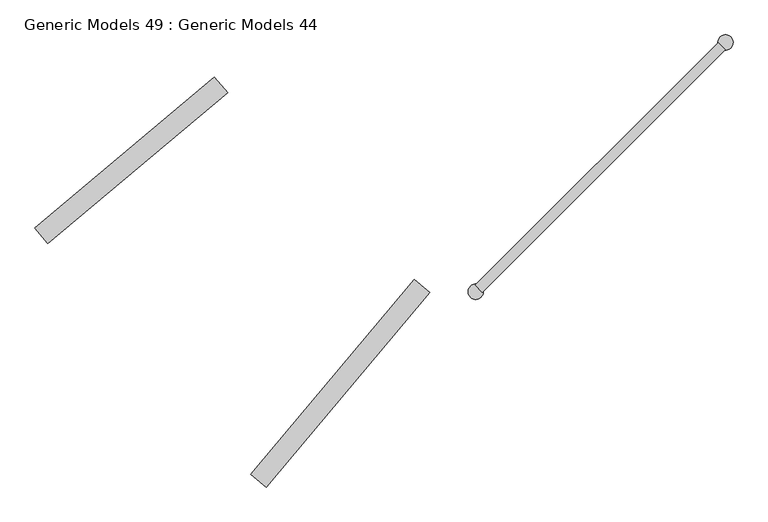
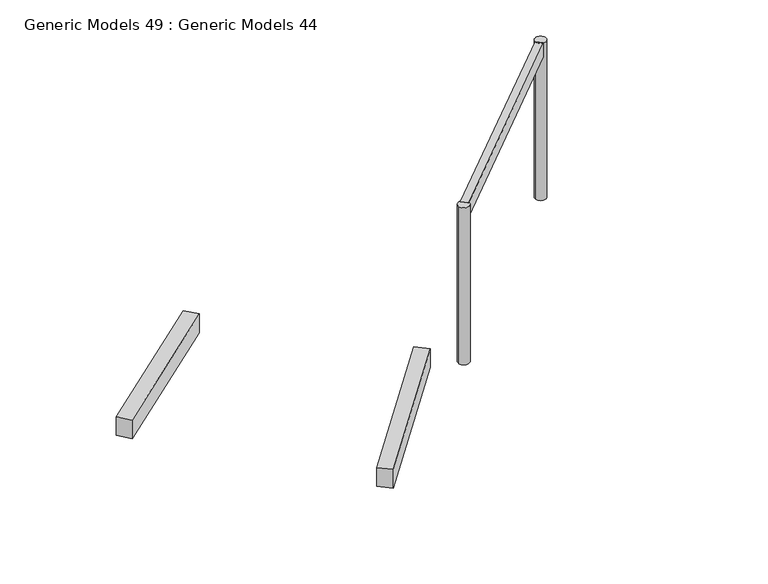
"""IFC4 building model written with IfcOpenShell, lengths in millimetres: proxy geometry, Generic Models 49 : Generic Models 44."""

from ifc_helpers import new_model, si_unit, point, frame, frame_2d, origin, place, context, project, spatial, polyline, circle_curve, trimmed, segment, composite_curve, outline, extrude, source, transform, mapped, element, save


def generic_models_49_generic_models_44_38f5dda0(model_context):
    return source(origin(), model_context, "Body", "SweptSolid", [
        extrude(outline(polyline([(-109995.4702857, -35737.0994253), (-110148.6791743, -35608.5419033), (-108537.6518217, -33688.5942681), (-108384.4429331, -33817.1517901), (-109995.4702857, -35737.0994253)])), frame((0.0, 0.0, 42770.0), z_axis=(0.0, 0.0, 1.0), x_axis=(1.0, 0.0, 0.0)), (0.0, 0.0, 1.0), 268.5053554),
        extrude(outline(polyline([(-112144.4971273, -33333.9533005), (-112273.0546492, -33180.7444118), (-110504.6869748, -31696.9077484), (-110376.1294528, -31850.116637), (-112144.4971273, -33333.9533005)])), frame((0.0, 0.0, 42770.0), z_axis=(0.0, 0.0, 1.0), x_axis=(1.0, 0.0, 0.0)), (0.0, 0.0, 1.0), 268.5053554),
        extrude(outline(polyline([(-107866.6606079, -33817.7796088), (-107937.371286, -33747.0689307), (-105544.6562485, -31354.3538932), (-105473.9455704, -31425.0645713), (-107866.6606079, -33817.7796088)])), frame((0.0, 0.0, 44746.1646464), z_axis=(0.0, 0.0, 1.0), x_axis=(1.0, 0.0, 0.0)), (0.0, 0.0, 1.0), 195.4634247),
        extrude(outline(composite_curve([segment(trimmed(circle_curve(frame_2d((-107931.7278094, -33810.9678051)), 75.0), [point((-108006.7278094, -33810.9678051))], [point((-107856.7278094, -33810.9678051))], False, "CARTESIAN"), True, "CONTINUOUS"), segment(trimmed(circle_curve(frame_2d((-107931.7278094, -33810.9678051)), 75.0), [point((-107856.7278094, -33810.9678051))], [point((-108006.7278094, -33810.9678051))], False, "CARTESIAN"), True, "CONTINUOUS")], self_intersect=False)), frame((0.0, 0.0, 42695.9057084), z_axis=(0.0, 0.0, 1.0), x_axis=(1.0, 0.0, 0.0)), (0.0, 0.0, 1.0), 2245.7223627),
        extrude(outline(composite_curve([segment(trimmed(circle_curve(frame_2d((-105471.5390801, -31353.5552475)), 75.0), [point((-105546.5390801, -31353.5552475))], [point((-105396.5390801, -31353.5552475))], False, "CARTESIAN"), True, "CONTINUOUS"), segment(trimmed(circle_curve(frame_2d((-105471.5390801, -31353.5552475)), 75.0), [point((-105396.5390801, -31353.5552475))], [point((-105546.5390801, -31353.5552475))], False, "CARTESIAN"), True, "CONTINUOUS")], self_intersect=False)), frame((0.0, 0.0, 42695.9057084), z_axis=(0.0, 0.0, 1.0), x_axis=(1.0, 0.0, 0.0)), (0.0, 0.0, 1.0), 2245.7223627),
    ])


if __name__ == "__main__":
    model = new_model("IFC4")
    model_context = context("Model", 3, world=origin())
    ifc_project = project(units=[si_unit("LENGTHUNIT", "METRE", prefix="MILLI")], contexts=[model_context])
    site = spatial("IfcSite", under=ifc_project)
    building = spatial("IfcBuilding", under=site)
    placement = place(None, origin())
    generic_models_49_generic_models_44_shape = generic_models_49_generic_models_44_38f5dda0(model_context)
    element("IfcBuildingElementProxy", 1, Name="Generic Models 49 : Generic Models 44", ObjectType="Generic Models 49 : Generic Models 44", at=placement, inside=building, context=model_context, shape_type="MappedRepresentation", body=[
        mapped(generic_models_49_generic_models_44_shape, transform((0.0, 0.0, 0.0), x_axis=(1.0, 0.0, 0.0), y_axis=(0.0, 1.0, 0.0), z_axis=(0.0, 0.0, 1.0))),
    ])
    save(model, "model.ifc")
